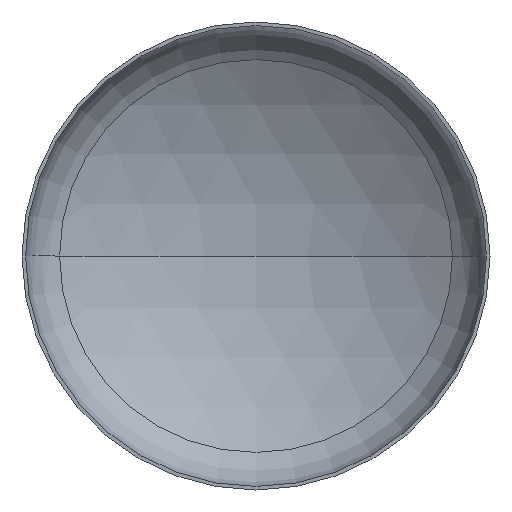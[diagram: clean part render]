
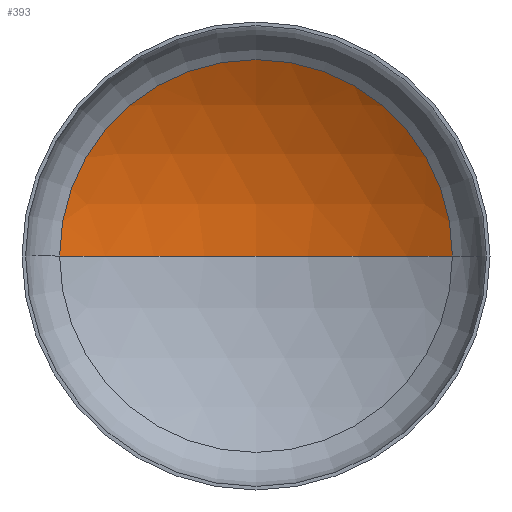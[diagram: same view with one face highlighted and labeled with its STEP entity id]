
A CAD part, front view. The second image highlights one B-rep face of the part: STEP entity #393.
In plain terms, the highlighted spherical face has radius 1360 mm.
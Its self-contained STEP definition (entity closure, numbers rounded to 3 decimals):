
#6 = VERTEX_POINT ( 'NONE', #260 ) ;
#10 = EDGE_LOOP ( 'NONE', ( #50, #164, #116 ) ) ;
#42 = AXIS2_PLACEMENT_3D ( 'NONE', #203, #208, #209 ) ;
#44 = AXIS2_PLACEMENT_3D ( 'NONE', #228, #229, #221 ) ;
#45 = AXIS2_PLACEMENT_3D ( 'NONE', #213, #308, #307 ) ;
#50 = ORIENTED_EDGE ( 'NONE', *, *, #97, .F. ) ;
#56 = FACE_OUTER_BOUND ( 'NONE', #10, .T. ) ;
#62 = VERTEX_POINT ( 'NONE', #278 ) ;
#91 = EDGE_CURVE ( 'NONE', #6, #62, #191, .T. ) ;
#93 = EDGE_CURVE ( 'NONE', #133, #6, #312, .T. ) ;
#97 = EDGE_CURVE ( 'NONE', #133, #62, #179, .T. ) ;
#99 = DIRECTION ( 'NONE',  ( 0., 0., -1. ) ) ;
#116 = ORIENTED_EDGE ( 'NONE', *, *, #91, .T. ) ;
#133 = VERTEX_POINT ( 'NONE', #217 ) ;
#164 = ORIENTED_EDGE ( 'NONE', *, *, #93, .T. ) ;
#179 = CIRCLE ( 'NONE', #42, 1360. ) ;
#185 = SPHERICAL_SURFACE ( 'NONE', #238, 1360. ) ;
#191 = CIRCLE ( 'NONE', #45, 713.382 ) ;
#203 = CARTESIAN_POINT ( 'NONE',  ( 0., -896.521, 0. ) ) ;
#208 = DIRECTION ( 'NONE',  ( 0., 0., 1. ) ) ;
#209 = DIRECTION ( 'NONE',  ( 1., 0., 0. ) ) ;
#213 = CARTESIAN_POINT ( 'NONE',  ( 0., 261.359, 0. ) ) ;
#217 = CARTESIAN_POINT ( 'NONE',  ( 0., 463.479, 0. ) ) ;
#221 = DIRECTION ( 'NONE',  ( -1., 0., 0. ) ) ;
#228 = CARTESIAN_POINT ( 'NONE',  ( 0., -896.521, 0. ) ) ;
#229 = DIRECTION ( 'NONE',  ( 0., 0., -1. ) ) ;
#238 = AXIS2_PLACEMENT_3D ( 'NONE', #315, #99, #343 ) ;
#260 = CARTESIAN_POINT ( 'NONE',  ( 713.382, 261.359, 0. ) ) ;
#278 = CARTESIAN_POINT ( 'NONE',  ( -713.382, 261.359, 0. ) ) ;
#307 = DIRECTION ( 'NONE',  ( 1., 0., 0. ) ) ;
#308 = DIRECTION ( 'NONE',  ( 0., -1., 0. ) ) ;
#312 = CIRCLE ( 'NONE', #44, 1360. ) ;
#315 = CARTESIAN_POINT ( 'NONE',  ( 0., -896.521, 0. ) ) ;
#343 = DIRECTION ( 'NONE',  ( -1., 0., 0. ) ) ;
#393 = ADVANCED_FACE ( 'NONE', ( #56 ), #185, .F. ) ;
